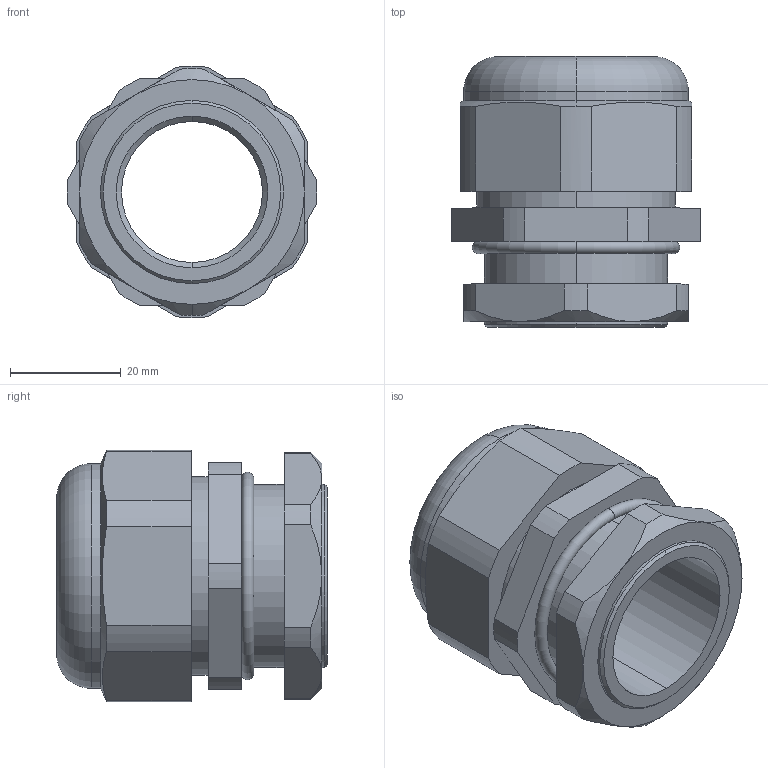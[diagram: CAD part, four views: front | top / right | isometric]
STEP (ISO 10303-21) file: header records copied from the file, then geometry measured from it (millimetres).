
FILE_DESCRIPTION (( 'STEP AP203' ), '1' );
FILE_NAME ('CH-B1-25.STEP', '2018-02-07T14:50:32', ( '' ), ( '' ), 'SwSTEP 2.0', 'SolidWorks 2012', '' );
FILE_SCHEMA (( 'CONFIG_CONTROL_DESIGN' ));
Length unit declared in the file: millimetre
Products named in the file (1): CH-B1-25
Bounding box: 44.98 x 48.8 x 45.3 mm (x, y, z)
Volume: 35660.2 mm3; surface area: 14008.5 mm2
Topology: 1 solids, 1 shells, 78 faces, 189 edges, 118 vertices
Faces by surface type: cylinder 34, plane 25, cone 15, torus 4
Entity records: 2486 total; most frequent: CARTESIAN_POINT 540, DIRECTION 415, ORIENTED_EDGE 378, EDGE_CURVE 189, AXIS2_PLACEMENT_3D 165, VERTEX_POINT 118, CIRCLE 86, LINE 85
